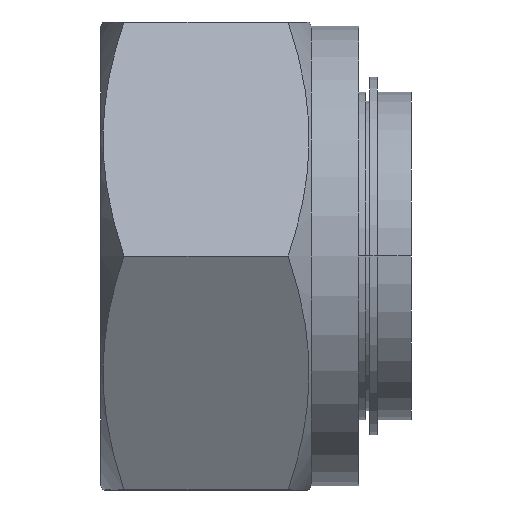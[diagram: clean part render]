
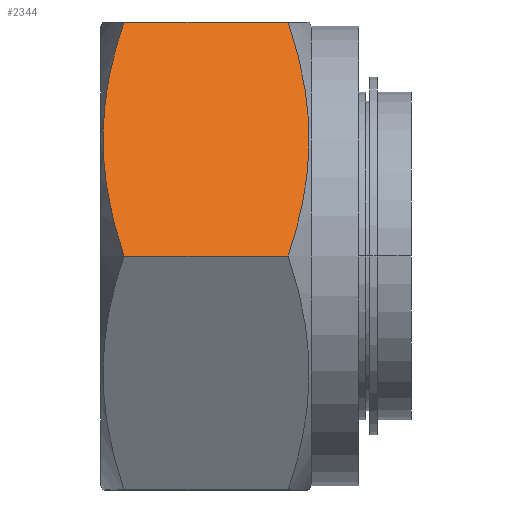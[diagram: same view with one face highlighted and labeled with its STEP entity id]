
A CAD part, front view. The second image highlights one B-rep face of the part: STEP entity #2344.
In plain terms, the highlighted planar face has unit normal (0, -0.866, 0.5).
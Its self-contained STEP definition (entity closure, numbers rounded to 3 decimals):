
#47 = DIRECTION ( 'NONE',  ( 0., 0.5, 0.866 ) ) ;
#48 = DIRECTION ( 'NONE',  ( 0., 0.866, -0.5 ) ) ;
#49 = CARTESIAN_POINT ( 'NONE',  ( 17.5, -9.165, 15.875 ) ) ;
#50 = AXIS2_PLACEMENT_3D ( 'NONE', #49, #48, #47 ) ;
#51 = PLANE ( 'NONE',  #50 ) ;
#52 = FACE_OUTER_BOUND ( 'NONE', #2345, .T. ) ;
#245 = CARTESIAN_POINT ( 'NONE',  ( 1.577, -18.331, 0. ) ) ;
#287 = CARTESIAN_POINT ( 'NONE',  ( 1.577, -9.165, 15.875 ) ) ;
#311 = CARTESIAN_POINT ( 'NONE',  ( 1.577, -9.165, 15.875 ) ) ;
#312 = CARTESIAN_POINT ( 'NONE',  ( 1.144, -9.915, 14.577 ) ) ;
#313 = CARTESIAN_POINT ( 'NONE',  ( 0.787, -10.67, 13.269 ) ) ;
#314 = CARTESIAN_POINT ( 'NONE',  ( 0.417, -11.817, 11.282 ) ) ;
#315 = CARTESIAN_POINT ( 'NONE',  ( 0.321, -12.202, 10.616 ) ) ;
#316 = CARTESIAN_POINT ( 'NONE',  ( 0.191, -12.976, 9.275 ) ) ;
#317 = CARTESIAN_POINT ( 'NONE',  ( 0.158, -13.367, 8.597 ) ) ;
#318 = CARTESIAN_POINT ( 'NONE',  ( 0.16, -14.536, 6.573 ) ) ;
#319 = CARTESIAN_POINT ( 'NONE',  ( 0.295, -15.306, 5.24 ) ) ;
#320 = CARTESIAN_POINT ( 'NONE',  ( 0.789, -16.829, 2.602 ) ) ;
#321 = CARTESIAN_POINT ( 'NONE',  ( 1.145, -17.583, 1.296 ) ) ;
#322 = CARTESIAN_POINT ( 'NONE',  ( 1.577, -18.331, 0. ) ) ;
#324 = B_SPLINE_CURVE_WITH_KNOTS ( 'NONE', 3,
 ( #322, #321, #320, #319, #318, #317, #316, #315, #314, #313, #312, #311 ),
 .UNSPECIFIED., .F., .F.,
 ( 4, 2, 2, 2, 2, 4 ),
 ( 0., 0.005, 0.009, 0.012, 0.014, 0.019 ),
 .UNSPECIFIED. ) ;
#1097 = CARTESIAN_POINT ( 'NONE',  ( 12.723, -18.331, 0. ) ) ;
#1238 = CARTESIAN_POINT ( 'NONE',  ( 12.723, -18.331, 0. ) ) ;
#1239 = CARTESIAN_POINT ( 'NONE',  ( 13.156, -17.582, 1.298 ) ) ;
#1240 = CARTESIAN_POINT ( 'NONE',  ( 13.513, -16.826, 2.606 ) ) ;
#1241 = CARTESIAN_POINT ( 'NONE',  ( 13.883, -15.679, 4.593 ) ) ;
#1242 = CARTESIAN_POINT ( 'NONE',  ( 13.979, -15.295, 5.259 ) ) ;
#1243 = CARTESIAN_POINT ( 'NONE',  ( 14.109, -14.52, 6.6 ) ) ;
#1244 = CARTESIAN_POINT ( 'NONE',  ( 14.142, -14.129, 7.278 ) ) ;
#1245 = CARTESIAN_POINT ( 'NONE',  ( 14.14, -12.96, 9.302 ) ) ;
#1246 = CARTESIAN_POINT ( 'NONE',  ( 14.005, -12.191, 10.635 ) ) ;
#1247 = CARTESIAN_POINT ( 'NONE',  ( 13.511, -10.667, 13.273 ) ) ;
#1248 = CARTESIAN_POINT ( 'NONE',  ( 13.155, -9.914, 14.579 ) ) ;
#1249 = CARTESIAN_POINT ( 'NONE',  ( 12.723, -9.165, 15.875 ) ) ;
#1250 = B_SPLINE_CURVE_WITH_KNOTS ( 'NONE', 3,
 ( #1249, #1248, #1247, #1246, #1245, #1244, #1243, #1242, #1241, #1240, #1239, #1238 ),
 .UNSPECIFIED., .F., .F.,
 ( 4, 2, 2, 2, 2, 4 ),
 ( 0., 0.005, 0.009, 0.012, 0.014, 0.019 ),
 .UNSPECIFIED. ) ;
#1256 = CARTESIAN_POINT ( 'NONE',  ( 12.723, -9.165, 15.875 ) ) ;
#1388 = DIRECTION ( 'NONE',  ( -1., 0., 0. ) ) ;
#1389 = VECTOR ( 'NONE', #1388, 1000. ) ;
#1390 = CARTESIAN_POINT ( 'NONE',  ( 17.5, -9.165, 15.875 ) ) ;
#1394 = LINE ( 'NONE', #1390, #1389 ) ;
#2306 = ORIENTED_EDGE ( 'NONE', *, *, #2896, .T. ) ;
#2307 = EDGE_CURVE ( 'NONE', #2783, #2367, #3131, .T. ) ;
#2308 = ORIENTED_EDGE ( 'NONE', *, *, #2307, .F. ) ;
#2313 = ORIENTED_EDGE ( 'NONE', *, *, #2843, .F. ) ;
#2344 = ADVANCED_FACE ( 'NONE', ( #52 ), #51, .F. ) ;
#2345 = EDGE_LOOP ( 'NONE', ( #2348, #2308, #2313, #2306 ) ) ;
#2348 = ORIENTED_EDGE ( 'NONE', *, *, #2382, .F. ) ;
#2367 = VERTEX_POINT ( 'NONE', #245 ) ;
#2375 = VERTEX_POINT ( 'NONE', #287 ) ;
#2382 = EDGE_CURVE ( 'NONE', #2367, #2375, #324, .T. ) ;
#2783 = VERTEX_POINT ( 'NONE', #1097 ) ;
#2839 = VERTEX_POINT ( 'NONE', #1256 ) ;
#2843 = EDGE_CURVE ( 'NONE', #2839, #2783, #1250, .T. ) ;
#2896 = EDGE_CURVE ( 'NONE', #2839, #2375, #1394, .T. ) ;
#3128 = DIRECTION ( 'NONE',  ( -1., 0., 0. ) ) ;
#3129 = VECTOR ( 'NONE', #3128, 1000. ) ;
#3130 = CARTESIAN_POINT ( 'NONE',  ( 17.5, -18.331, 0. ) ) ;
#3131 = LINE ( 'NONE', #3130, #3129 ) ;
